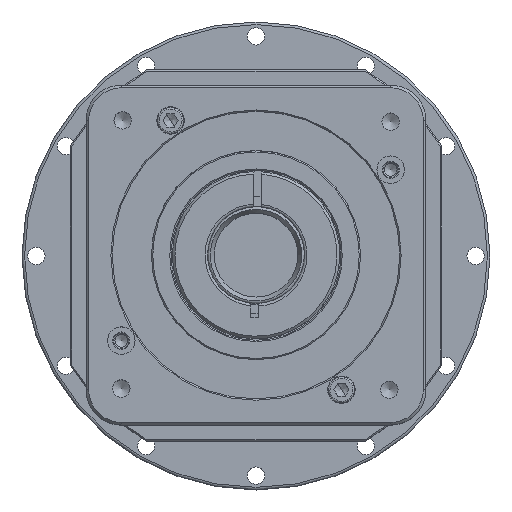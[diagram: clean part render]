
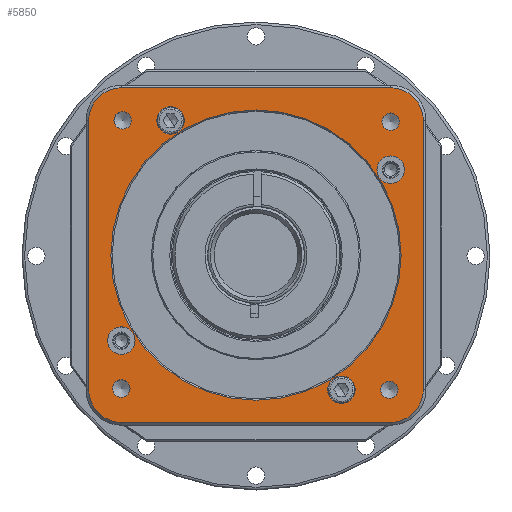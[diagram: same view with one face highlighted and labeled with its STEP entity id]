
A CAD part, top view. The second image highlights one B-rep face of the part: STEP entity #5850.
In plain terms, the highlighted planar face has unit normal (0, 0, 1).
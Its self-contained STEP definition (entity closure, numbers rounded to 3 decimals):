
#5672=CARTESIAN_POINT('',(0.,55.5,138.85));
#5673=VERTEX_POINT('',#5672);
#5674=CARTESIAN_POINT('',(0.,0.,138.85));
#5675=DIRECTION('',(0.0,0.0,1.0));
#5676=DIRECTION('',(0.0,-1.0,0.0));
#5677=AXIS2_PLACEMENT_3D('',#5674,#5675,#5676);
#5678=CIRCLE('',#5677,55.5);
#5679=EDGE_CURVE('',#5673,#5673,#5678,.T.);
#5684=CARTESIAN_POINT('',(0.,0.,138.85));
#5685=DIRECTION('',(0.0,0.0,1.0));
#5686=DIRECTION('',(0.0,1.0,0.0));
#5687=AXIS2_PLACEMENT_3D('',#5684,#5685,#5686);
#5688=PLANE('',#5687);
#5689=CARTESIAN_POINT('',(64.0,51.5,138.85));
#5690=VERTEX_POINT('',#5689);
#5691=CARTESIAN_POINT('',(64.,-51.5,138.85));
#5692=VERTEX_POINT('',#5691);
#5693=CARTESIAN_POINT('',(64.,51.5,138.85));
#5694=DIRECTION('',(0.0,-1.0,0.0));
#5695=VECTOR('',#5694,103.);
#5696=LINE('',#5693,#5695);
#5697=EDGE_CURVE('',#5690,#5692,#5696,.T.);
#5698=ORIENTED_EDGE('',*,*,#5697,.F.);
#5699=CARTESIAN_POINT('',(51.5,64.,138.85));
#5700=VERTEX_POINT('',#5699);
#5701=CARTESIAN_POINT('',(51.5,51.5,138.85));
#5702=DIRECTION('',(0.,0.,-1.0));
#5703=DIRECTION('',(0.707,0.707,0.));
#5704=AXIS2_PLACEMENT_3D('',#5701,#5702,#5703);
#5705=CIRCLE('',#5704,12.5);
#5706=EDGE_CURVE('',#5700,#5690,#5705,.T.);
#5707=ORIENTED_EDGE('',*,*,#5706,.F.);
#5708=CARTESIAN_POINT('',(-51.5,64.,138.85));
#5709=VERTEX_POINT('',#5708);
#5710=CARTESIAN_POINT('',(-51.5,64.0,138.85));
#5711=DIRECTION('',(1.0,0.0,0.0));
#5712=VECTOR('',#5711,103.);
#5713=LINE('',#5710,#5712);
#5714=EDGE_CURVE('',#5709,#5700,#5713,.T.);
#5715=ORIENTED_EDGE('',*,*,#5714,.F.);
#5716=CARTESIAN_POINT('',(-64.,51.5,138.85));
#5717=VERTEX_POINT('',#5716);
#5718=CARTESIAN_POINT('',(-51.5,51.5,138.85));
#5719=DIRECTION('',(0.,0.,-1.0));
#5720=DIRECTION('',(-0.707,0.707,0.));
#5721=AXIS2_PLACEMENT_3D('',#5718,#5719,#5720);
#5722=CIRCLE('',#5721,12.5);
#5723=EDGE_CURVE('',#5717,#5709,#5722,.T.);
#5724=ORIENTED_EDGE('',*,*,#5723,.F.);
#5725=CARTESIAN_POINT('',(-64.0,-51.5,138.85));
#5726=VERTEX_POINT('',#5725);
#5727=CARTESIAN_POINT('',(-64.,-51.5,138.85));
#5728=DIRECTION('',(0.0,1.0,0.0));
#5729=VECTOR('',#5728,103.);
#5730=LINE('',#5727,#5729);
#5731=EDGE_CURVE('',#5726,#5717,#5730,.T.);
#5732=ORIENTED_EDGE('',*,*,#5731,.F.);
#5733=CARTESIAN_POINT('',(-51.5,-64.,138.85));
#5734=VERTEX_POINT('',#5733);
#5735=CARTESIAN_POINT('',(-51.5,-51.5,138.85));
#5736=DIRECTION('',(0.,0.,-1.0));
#5737=DIRECTION('',(-0.707,-0.707,0.));
#5738=AXIS2_PLACEMENT_3D('',#5735,#5736,#5737);
#5739=CIRCLE('',#5738,12.5);
#5740=EDGE_CURVE('',#5734,#5726,#5739,.T.);
#5741=ORIENTED_EDGE('',*,*,#5740,.F.);
#5742=CARTESIAN_POINT('',(51.5,-64.0,138.85));
#5743=VERTEX_POINT('',#5742);
#5744=CARTESIAN_POINT('',(51.5,-64.,138.85));
#5745=DIRECTION('',(-1.0,0.0,0.0));
#5746=VECTOR('',#5745,103.0);
#5747=LINE('',#5744,#5746);
#5748=EDGE_CURVE('',#5743,#5734,#5747,.T.);
#5749=ORIENTED_EDGE('',*,*,#5748,.F.);
#5750=CARTESIAN_POINT('',(51.5,-51.5,138.85));
#5751=DIRECTION('',(0.,0.,-1.0));
#5752=DIRECTION('',(0.707,-0.707,0.));
#5753=AXIS2_PLACEMENT_3D('',#5750,#5751,#5752);
#5754=CIRCLE('',#5753,12.5);
#5755=EDGE_CURVE('',#5692,#5743,#5754,.T.);
#5756=ORIENTED_EDGE('',*,*,#5755,.F.);
#5757=EDGE_LOOP('',(#5698,#5707,#5715,#5724,#5732,#5741,#5749,#5756));
#5758=FACE_OUTER_BOUND('',#5757,.T.);
#5759=CARTESIAN_POINT('',(-27.435,51.504,138.85));
#5760=VERTEX_POINT('',#5759);
#5761=CARTESIAN_POINT('',(-32.685,51.504,138.85));
#5762=DIRECTION('',(0.0,0.0,-1.0));
#5763=DIRECTION('',(1.0,0.0,0.0));
#5764=AXIS2_PLACEMENT_3D('',#5761,#5762,#5763);
#5765=CIRCLE('',#5764,5.25);
#5766=EDGE_CURVE('',#5760,#5760,#5765,.T.);
#5767=ORIENTED_EDGE('',*,*,#5766,.T.);
#5768=EDGE_LOOP('',(#5767));
#5769=FACE_BOUND('',#5768,.T.);
#5770=CARTESIAN_POINT('',(51.504,27.435,138.85));
#5771=VERTEX_POINT('',#5770);
#5772=CARTESIAN_POINT('',(51.504,32.685,138.85));
#5773=DIRECTION('',(0.0,0.0,-1.0));
#5774=DIRECTION('',(0.0,-1.0,0.0));
#5775=AXIS2_PLACEMENT_3D('',#5772,#5773,#5774);
#5776=CIRCLE('',#5775,5.25);
#5777=EDGE_CURVE('',#5771,#5771,#5776,.T.);
#5778=ORIENTED_EDGE('',*,*,#5777,.T.);
#5779=EDGE_LOOP('',(#5778));
#5780=FACE_BOUND('',#5779,.T.);
#5781=CARTESIAN_POINT('',(27.435,-51.504,138.85));
#5782=VERTEX_POINT('',#5781);
#5783=CARTESIAN_POINT('',(32.685,-51.504,138.85));
#5784=DIRECTION('',(0.0,0.0,-1.0));
#5785=DIRECTION('',(-1.0,0.0,0.0));
#5786=AXIS2_PLACEMENT_3D('',#5783,#5784,#5785);
#5787=CIRCLE('',#5786,5.25);
#5788=EDGE_CURVE('',#5782,#5782,#5787,.T.);
#5789=ORIENTED_EDGE('',*,*,#5788,.T.);
#5790=EDGE_LOOP('',(#5789));
#5791=FACE_BOUND('',#5790,.T.);
#5792=CARTESIAN_POINT('',(-51.504,-27.435,138.85));
#5793=VERTEX_POINT('',#5792);
#5794=CARTESIAN_POINT('',(-51.504,-32.685,138.85));
#5795=DIRECTION('',(0.0,0.0,-1.0));
#5796=DIRECTION('',(0.0,1.0,0.0));
#5797=AXIS2_PLACEMENT_3D('',#5794,#5795,#5796);
#5798=CIRCLE('',#5797,5.25);
#5799=EDGE_CURVE('',#5793,#5793,#5798,.T.);
#5800=ORIENTED_EDGE('',*,*,#5799,.T.);
#5801=EDGE_LOOP('',(#5800));
#5802=FACE_BOUND('',#5801,.T.);
#5803=CARTESIAN_POINT('',(54.823,51.029,138.85));
#5804=VERTEX_POINT('',#5803);
#5805=CARTESIAN_POINT('',(51.5,51.029,138.85));
#5806=DIRECTION('',(0.0,0.0,-1.0));
#5807=DIRECTION('',(1.0,0.0,0.0));
#5808=AXIS2_PLACEMENT_3D('',#5805,#5806,#5807);
#5809=CIRCLE('',#5808,3.324);
#5810=EDGE_CURVE('',#5804,#5804,#5809,.T.);
#5811=ORIENTED_EDGE('',*,*,#5810,.T.);
#5812=EDGE_LOOP('',(#5811));
#5813=FACE_BOUND('',#5812,.T.);
#5814=CARTESIAN_POINT('',(51.029,-54.824,138.85));
#5815=VERTEX_POINT('',#5814);
#5816=CARTESIAN_POINT('',(51.029,-51.5,138.85));
#5817=DIRECTION('',(0.0,0.0,-1.0));
#5818=DIRECTION('',(0.0,-1.0,0.0));
#5819=AXIS2_PLACEMENT_3D('',#5816,#5817,#5818);
#5820=CIRCLE('',#5819,3.324);
#5821=EDGE_CURVE('',#5815,#5815,#5820,.T.);
#5822=ORIENTED_EDGE('',*,*,#5821,.T.);
#5823=EDGE_LOOP('',(#5822));
#5824=FACE_BOUND('',#5823,.T.);
#5825=CARTESIAN_POINT('',(-54.824,-51.029,138.85));
#5826=VERTEX_POINT('',#5825);
#5827=CARTESIAN_POINT('',(-51.5,-51.029,138.85));
#5828=DIRECTION('',(0.0,0.0,-1.0));
#5829=DIRECTION('',(-1.0,0.0,0.0));
#5830=AXIS2_PLACEMENT_3D('',#5827,#5828,#5829);
#5831=CIRCLE('',#5830,3.324);
#5832=EDGE_CURVE('',#5826,#5826,#5831,.T.);
#5833=ORIENTED_EDGE('',*,*,#5832,.T.);
#5834=EDGE_LOOP('',(#5833));
#5835=FACE_BOUND('',#5834,.T.);
#5836=CARTESIAN_POINT('',(-51.029,54.823,138.85));
#5837=VERTEX_POINT('',#5836);
#5838=CARTESIAN_POINT('',(-51.029,51.5,138.85));
#5839=DIRECTION('',(0.0,0.0,-1.0));
#5840=DIRECTION('',(0.0,1.0,0.0));
#5841=AXIS2_PLACEMENT_3D('',#5838,#5839,#5840);
#5842=CIRCLE('',#5841,3.324);
#5843=EDGE_CURVE('',#5837,#5837,#5842,.T.);
#5844=ORIENTED_EDGE('',*,*,#5843,.T.);
#5845=EDGE_LOOP('',(#5844));
#5846=FACE_BOUND('',#5845,.T.);
#5847=ORIENTED_EDGE('',*,*,#5679,.F.);
#5848=EDGE_LOOP('',(#5847));
#5849=FACE_BOUND('',#5848,.T.);
#5850=ADVANCED_FACE('',(#5758,#5769,#5780,#5791,#5802,#5813,#5824,#5835,#5846,#5849),#5688,.T.);
